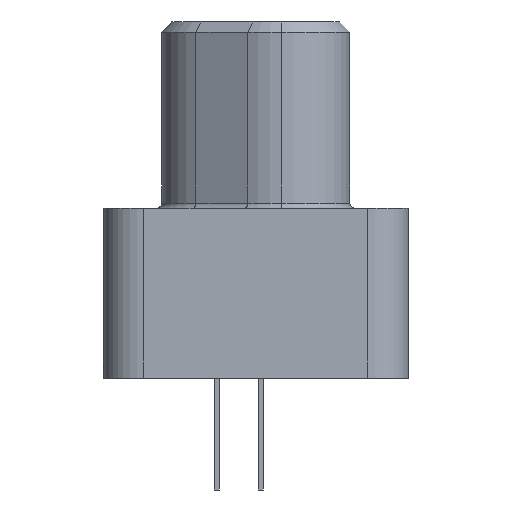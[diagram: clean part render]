
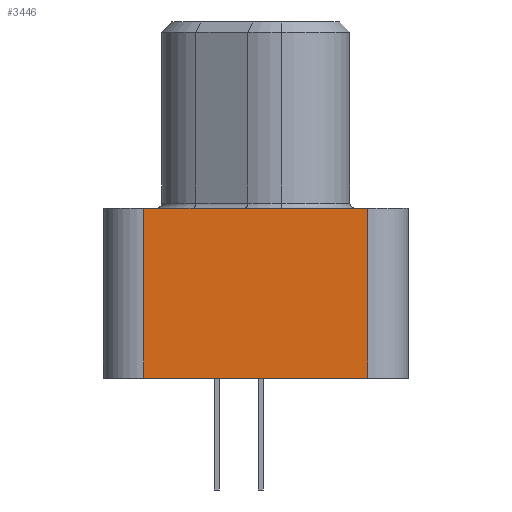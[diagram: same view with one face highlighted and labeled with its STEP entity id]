
A CAD part, left-side view. The second image highlights one B-rep face of the part: STEP entity #3446.
In plain terms, the highlighted planar face has unit normal (-1, 0, 0).
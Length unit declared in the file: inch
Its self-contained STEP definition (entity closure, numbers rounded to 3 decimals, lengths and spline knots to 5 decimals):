
#1966 = DIRECTION ( 'NONE',  ( 0., 0., -1. ) ) ;
#2757 = PLANE ( 'NONE',  #22712 ) ;
#3446 = ADVANCED_FACE ( 'NONE', ( #8345 ), #2757, .T. ) ;
#4001 = CARTESIAN_POINT ( 'NONE',  ( -0.6625, -0.11, 0.042 ) ) ;
#4662 = ORIENTED_EDGE ( 'NONE', *, *, #23975, .F. ) ;
#7113 = LINE ( 'NONE', #32463, #23436 ) ;
#7211 = CARTESIAN_POINT ( 'NONE',  ( -0.6625, 0.11, 0.042 ) ) ;
#7346 = LINE ( 'NONE', #18231, #24723 ) ;
#8345 = FACE_OUTER_BOUND ( 'NONE', #18333, .T. ) ;
#10630 = VERTEX_POINT ( 'NONE', #4001 ) ;
#11882 = ORIENTED_EDGE ( 'NONE', *, *, #36101, .T. ) ;
#12074 = VERTEX_POINT ( 'NONE', #30411 ) ;
#15714 = LINE ( 'NONE', #27099, #34818 ) ;
#15931 = DIRECTION ( 'NONE',  ( 0., 1., 0. ) ) ;
#15981 = DIRECTION ( 'NONE',  ( 0., 0., -1. ) ) ;
#18231 = CARTESIAN_POINT ( 'NONE',  ( -0.6625, -0.11, 0.042 ) ) ;
#18333 = EDGE_LOOP ( 'NONE', ( #11882, #36476, #4662, #29193 ) ) ;
#18889 = VERTEX_POINT ( 'NONE', #7211 ) ;
#20159 = EDGE_CURVE ( 'NONE', #32492, #12074, #7113, .T. ) ;
#21399 = LINE ( 'NONE', #27581, #32166 ) ;
#22712 = AXIS2_PLACEMENT_3D ( 'NONE', #36087, #32959, #27438 ) ;
#23436 = VECTOR ( 'NONE', #15931, 39.37008 ) ;
#23975 = EDGE_CURVE ( 'NONE', #10630, #32492, #7346, .T. ) ;
#24723 = VECTOR ( 'NONE', #15981, 39.37008 ) ;
#27099 = CARTESIAN_POINT ( 'NONE',  ( -0.6625, -0.11, 0.042 ) ) ;
#27438 = DIRECTION ( 'NONE',  ( 0., 0., 1. ) ) ;
#27581 = CARTESIAN_POINT ( 'NONE',  ( -0.6625, 0.11, 0.042 ) ) ;
#29193 = ORIENTED_EDGE ( 'NONE', *, *, #29771, .T. ) ;
#29771 = EDGE_CURVE ( 'NONE', #10630, #18889, #15714, .T. ) ;
#30411 = CARTESIAN_POINT ( 'NONE',  ( -0.6625, 0.11, -0.125 ) ) ;
#32166 = VECTOR ( 'NONE', #1966, 39.37008 ) ;
#32463 = CARTESIAN_POINT ( 'NONE',  ( -0.6625, -0.11, -0.125 ) ) ;
#32492 = VERTEX_POINT ( 'NONE', #33883 ) ;
#32959 = DIRECTION ( 'NONE',  ( -1., 0., 0. ) ) ;
#33883 = CARTESIAN_POINT ( 'NONE',  ( -0.6625, -0.11, -0.125 ) ) ;
#34818 = VECTOR ( 'NONE', #35737, 39.37008 ) ;
#35737 = DIRECTION ( 'NONE',  ( 0., 1., 0. ) ) ;
#36087 = CARTESIAN_POINT ( 'NONE',  ( -0.6625, -0.11, 0.042 ) ) ;
#36101 = EDGE_CURVE ( 'NONE', #18889, #12074, #21399, .T. ) ;
#36476 = ORIENTED_EDGE ( 'NONE', *, *, #20159, .F. ) ;
